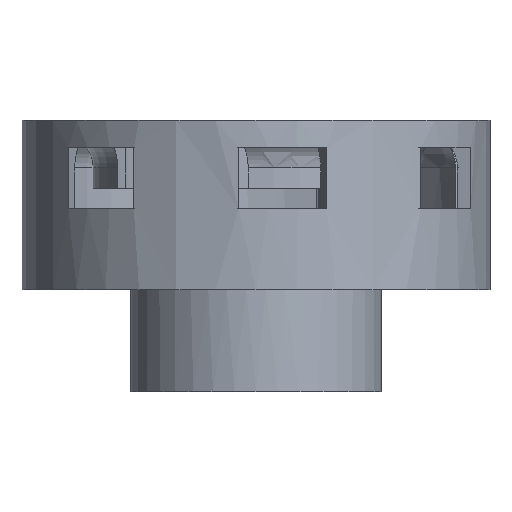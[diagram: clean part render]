
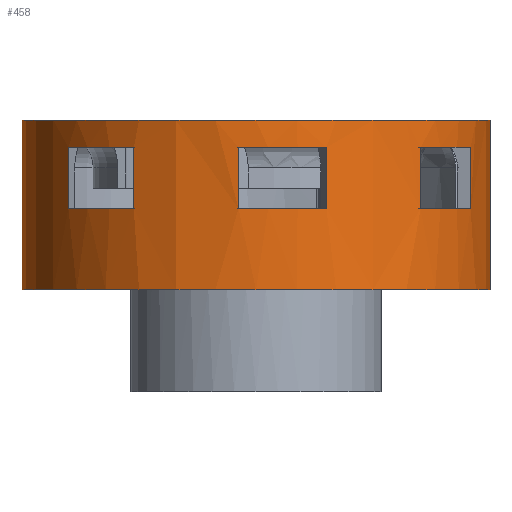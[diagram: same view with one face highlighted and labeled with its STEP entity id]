
A CAD part, front view. The second image highlights one B-rep face of the part: STEP entity #458.
In plain terms, the highlighted cylindrical face has radius 34.5 mm (diameter 69 mm), a partial arc.
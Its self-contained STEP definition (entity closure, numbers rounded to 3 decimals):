
#11 = DIRECTION ( 'NONE',  ( 0., 0., 1. ) ) ;
#22 = CARTESIAN_POINT ( 'NONE',  ( 24.267, -24.523, 0. ) ) ;
#27 = VECTOR ( 'NONE', #1894, 1000. ) ;
#51 = EDGE_CURVE ( 'NONE', #401, #800, #1520, .T. ) ;
#68 = CARTESIAN_POINT ( 'NONE',  ( -34.5, 0., 10. ) ) ;
#82 = CARTESIAN_POINT ( 'NONE',  ( 10.383, -32.9, 0. ) ) ;
#118 = CARTESIAN_POINT ( 'NONE',  ( -34.5, 0., -15. ) ) ;
#192 = CARTESIAN_POINT ( 'NONE',  ( 10.383, -32.9, -3. ) ) ;
#220 = ORIENTED_EDGE ( 'NONE', *, *, #1183, .F. ) ;
#235 = ORIENTED_EDGE ( 'NONE', *, *, #2316, .F. ) ;
#313 = CARTESIAN_POINT ( 'NONE',  ( 0., 0., 6. ) ) ;
#319 = EDGE_CURVE ( 'NONE', #1529, #337, #671, .T. ) ;
#329 = AXIS2_PLACEMENT_3D ( 'NONE', #1530, #418, #1719 ) ;
#337 = VERTEX_POINT ( 'NONE', #1885 ) ;
#342 = AXIS2_PLACEMENT_3D ( 'NONE', #2090, #969, #2287 ) ;
#343 = LINE ( 'NONE', #937, #2258 ) ;
#365 = EDGE_CURVE ( 'NONE', #369, #758, #563, .T. ) ;
#369 = VERTEX_POINT ( 'NONE', #1335 ) ;
#371 = LINE ( 'NONE', #1842, #1347 ) ;
#380 = AXIS2_PLACEMENT_3D ( 'NONE', #313, #1616, #502 ) ;
#383 = FACE_BOUND ( 'NONE', #1202, .T. ) ;
#385 = EDGE_CURVE ( 'NONE', #758, #602, #980, .T. ) ;
#386 = VERTEX_POINT ( 'NONE', #1710 ) ;
#393 = AXIS2_PLACEMENT_3D ( 'NONE', #1096, #2415, #1283 ) ;
#397 = DIRECTION ( 'NONE',  ( 0., 0., 1. ) ) ;
#401 = VERTEX_POINT ( 'NONE', #1159 ) ;
#409 = DIRECTION ( 'NONE',  ( 0., 0., -1. ) ) ;
#418 = DIRECTION ( 'NONE',  ( 0., 0., -1. ) ) ;
#424 = CARTESIAN_POINT ( 'NONE',  ( -2.587, -34.403, -3. ) ) ;
#458 = ADVANCED_FACE ( 'NONE', ( #2307, #383, #1366, #807 ), #749, .T. ) ;
#473 = AXIS2_PLACEMENT_3D ( 'NONE', #1125, #11, #1314 ) ;
#489 = CARTESIAN_POINT ( 'NONE',  ( 24.267, -24.523, -3. ) ) ;
#502 = DIRECTION ( 'NONE',  ( -1., 0., 0. ) ) ;
#559 = ORIENTED_EDGE ( 'NONE', *, *, #319, .T. ) ;
#563 = LINE ( 'NONE', #1525, #2047 ) ;
#602 = VERTEX_POINT ( 'NONE', #118 ) ;
#612 = ORIENTED_EDGE ( 'NONE', *, *, #1461, .F. ) ;
#630 = CARTESIAN_POINT ( 'NONE',  ( 0., 0., 0. ) ) ;
#633 = DIRECTION ( 'NONE',  ( 0., 0., -1. ) ) ;
#636 = ORIENTED_EDGE ( 'NONE', *, *, #1177, .T. ) ;
#645 = DIRECTION ( 'NONE',  ( 0., 0., 1. ) ) ;
#653 = CARTESIAN_POINT ( 'NONE',  ( 34.5, 0., -15. ) ) ;
#671 = CIRCLE ( 'NONE', #2388, 34.5 ) ;
#681 = ORIENTED_EDGE ( 'NONE', *, *, #51, .F. ) ;
#692 = EDGE_CURVE ( 'NONE', #1529, #1982, #1839, .T. ) ;
#694 = ORIENTED_EDGE ( 'NONE', *, *, #2240, .T. ) ;
#699 = LINE ( 'NONE', #855, #1254 ) ;
#710 = VERTEX_POINT ( 'NONE', #68 ) ;
#712 = ORIENTED_EDGE ( 'NONE', *, *, #801, .T. ) ;
#723 = DIRECTION ( 'NONE',  ( 0., 0., 1. ) ) ;
#749 = CYLINDRICAL_SURFACE ( 'NONE', #1571, 34.5 ) ;
#758 = VERTEX_POINT ( 'NONE', #653 ) ;
#769 = VERTEX_POINT ( 'NONE', #1954 ) ;
#785 = CIRCLE ( 'NONE', #918, 34.5 ) ;
#800 = VERTEX_POINT ( 'NONE', #489 ) ;
#801 = EDGE_CURVE ( 'NONE', #769, #1982, #1104, .T. ) ;
#807 = FACE_BOUND ( 'NONE', #2218, .T. ) ;
#854 = DIRECTION ( 'NONE',  ( 0., 0., -1. ) ) ;
#855 = CARTESIAN_POINT ( 'NONE',  ( -34.5, 0., 0. ) ) ;
#856 = CIRCLE ( 'NONE', #393, 34.5 ) ;
#882 = CARTESIAN_POINT ( 'NONE',  ( -2.587, -34.403, 6. ) ) ;
#893 = LINE ( 'NONE', #1189, #1073 ) ;
#918 = AXIS2_PLACEMENT_3D ( 'NONE', #1978, #854, #2160 ) ;
#936 = CIRCLE ( 'NONE', #473, 34.5 ) ;
#937 = CARTESIAN_POINT ( 'NONE',  ( -2.587, -34.403, 0. ) ) ;
#959 = ORIENTED_EDGE ( 'NONE', *, *, #2375, .F. ) ;
#969 = DIRECTION ( 'NONE',  ( 0., 0., -1. ) ) ;
#980 = CIRCLE ( 'NONE', #329, 34.5 ) ;
#1001 = DIRECTION ( 'NONE',  ( -1., 0., 0. ) ) ;
#1002 = EDGE_CURVE ( 'NONE', #710, #602, #699, .T. ) ;
#1042 = CARTESIAN_POINT ( 'NONE',  ( 0., 0., -3. ) ) ;
#1073 = VECTOR ( 'NONE', #1557, 1000. ) ;
#1096 = CARTESIAN_POINT ( 'NONE',  ( 0., 0., -3. ) ) ;
#1104 = CIRCLE ( 'NONE', #1400, 34.5 ) ;
#1111 = EDGE_LOOP ( 'NONE', ( #1266, #1531, #1729, #1793 ) ) ;
#1116 = VERTEX_POINT ( 'NONE', #882 ) ;
#1125 = CARTESIAN_POINT ( 'NONE',  ( 0., 0., 6. ) ) ;
#1159 = CARTESIAN_POINT ( 'NONE',  ( 24.267, -24.523, 6. ) ) ;
#1177 = EDGE_CURVE ( 'NONE', #1553, #2267, #856, .T. ) ;
#1183 = EDGE_CURVE ( 'NONE', #386, #1208, #371, .T. ) ;
#1189 = CARTESIAN_POINT ( 'NONE',  ( -18.018, -29.421, 0. ) ) ;
#1196 = CARTESIAN_POINT ( 'NONE',  ( -27.661, -20.618, 6. ) ) ;
#1202 = EDGE_LOOP ( 'NONE', ( #636, #612, #2276, #959 ) ) ;
#1208 = VERTEX_POINT ( 'NONE', #1855 ) ;
#1227 = DIRECTION ( 'NONE',  ( -1., 0., 0. ) ) ;
#1254 = VECTOR ( 'NONE', #2161, 1000. ) ;
#1266 = ORIENTED_EDGE ( 'NONE', *, *, #365, .F. ) ;
#1276 = VECTOR ( 'NONE', #645, 1000. ) ;
#1283 = DIRECTION ( 'NONE',  ( -1., 0., 0. ) ) ;
#1314 = DIRECTION ( 'NONE',  ( -1., 0., 0. ) ) ;
#1333 = VECTOR ( 'NONE', #633, 1000. ) ;
#1335 = CARTESIAN_POINT ( 'NONE',  ( 34.5, 0., 10. ) ) ;
#1347 = VECTOR ( 'NONE', #723, 1000. ) ;
#1366 = FACE_BOUND ( 'NONE', #1750, .T. ) ;
#1400 = AXIS2_PLACEMENT_3D ( 'NONE', #1042, #2363, #1227 ) ;
#1444 = EDGE_CURVE ( 'NONE', #401, #1208, #936, .T. ) ;
#1461 = EDGE_CURVE ( 'NONE', #1116, #2267, #343, .T. ) ;
#1502 = DIRECTION ( 'NONE',  ( 0., 0., -1. ) ) ;
#1508 = CARTESIAN_POINT ( 'NONE',  ( 0., 0., 6. ) ) ;
#1520 = LINE ( 'NONE', #22, #27 ) ;
#1525 = CARTESIAN_POINT ( 'NONE',  ( 34.5, 0., 0. ) ) ;
#1529 = VERTEX_POINT ( 'NONE', #1196 ) ;
#1530 = CARTESIAN_POINT ( 'NONE',  ( 0., 0., -15. ) ) ;
#1531 = ORIENTED_EDGE ( 'NONE', *, *, #1755, .T. ) ;
#1553 = VERTEX_POINT ( 'NONE', #192 ) ;
#1557 = DIRECTION ( 'NONE',  ( 0., 0., 1. ) ) ;
#1571 = AXIS2_PLACEMENT_3D ( 'NONE', #630, #2319, #1001 ) ;
#1616 = DIRECTION ( 'NONE',  ( 0., 0., 1. ) ) ;
#1700 = DIRECTION ( 'NONE',  ( -1., 0., 0. ) ) ;
#1710 = CARTESIAN_POINT ( 'NONE',  ( 31.642, -13.748, -3. ) ) ;
#1719 = DIRECTION ( 'NONE',  ( -1., 0., 0. ) ) ;
#1729 = ORIENTED_EDGE ( 'NONE', *, *, #1002, .T. ) ;
#1750 = EDGE_LOOP ( 'NONE', ( #694, #681, #2099, #220 ) ) ;
#1755 = EDGE_CURVE ( 'NONE', #369, #710, #785, .T. ) ;
#1768 = LINE ( 'NONE', #82, #1276 ) ;
#1793 = ORIENTED_EDGE ( 'NONE', *, *, #385, .F. ) ;
#1839 = LINE ( 'NONE', #2117, #1333 ) ;
#1842 = CARTESIAN_POINT ( 'NONE',  ( 31.642, -13.748, 0. ) ) ;
#1855 = CARTESIAN_POINT ( 'NONE',  ( 31.642, -13.748, 6. ) ) ;
#1885 = CARTESIAN_POINT ( 'NONE',  ( -18.018, -29.421, 6. ) ) ;
#1894 = DIRECTION ( 'NONE',  ( 0., 0., -1. ) ) ;
#1954 = CARTESIAN_POINT ( 'NONE',  ( -18.018, -29.421, -3. ) ) ;
#1978 = CARTESIAN_POINT ( 'NONE',  ( 0., 0., 10. ) ) ;
#1982 = VERTEX_POINT ( 'NONE', #2163 ) ;
#1989 = EDGE_CURVE ( 'NONE', #1116, #2002, #2392, .T. ) ;
#2002 = VERTEX_POINT ( 'NONE', #2368 ) ;
#2011 = CIRCLE ( 'NONE', #342, 34.5 ) ;
#2047 = VECTOR ( 'NONE', #409, 1000. ) ;
#2090 = CARTESIAN_POINT ( 'NONE',  ( 0., 0., -3. ) ) ;
#2099 = ORIENTED_EDGE ( 'NONE', *, *, #1444, .T. ) ;
#2117 = CARTESIAN_POINT ( 'NONE',  ( -27.661, -20.618, 0. ) ) ;
#2160 = DIRECTION ( 'NONE',  ( -1., 0., 0. ) ) ;
#2161 = DIRECTION ( 'NONE',  ( 0., 0., -1. ) ) ;
#2163 = CARTESIAN_POINT ( 'NONE',  ( -27.661, -20.618, -3. ) ) ;
#2204 = ORIENTED_EDGE ( 'NONE', *, *, #692, .F. ) ;
#2218 = EDGE_LOOP ( 'NONE', ( #712, #2204, #559, #235 ) ) ;
#2240 = EDGE_CURVE ( 'NONE', #386, #800, #2011, .T. ) ;
#2258 = VECTOR ( 'NONE', #1502, 1000. ) ;
#2267 = VERTEX_POINT ( 'NONE', #424 ) ;
#2276 = ORIENTED_EDGE ( 'NONE', *, *, #1989, .T. ) ;
#2287 = DIRECTION ( 'NONE',  ( -1., 0., 0. ) ) ;
#2307 = FACE_OUTER_BOUND ( 'NONE', #1111, .T. ) ;
#2316 = EDGE_CURVE ( 'NONE', #769, #337, #893, .T. ) ;
#2319 = DIRECTION ( 'NONE',  ( 0., 0., -1. ) ) ;
#2363 = DIRECTION ( 'NONE',  ( 0., 0., -1. ) ) ;
#2368 = CARTESIAN_POINT ( 'NONE',  ( 10.383, -32.9, 6. ) ) ;
#2375 = EDGE_CURVE ( 'NONE', #1553, #2002, #1768, .T. ) ;
#2388 = AXIS2_PLACEMENT_3D ( 'NONE', #1508, #397, #1700 ) ;
#2392 = CIRCLE ( 'NONE', #380, 34.5 ) ;
#2415 = DIRECTION ( 'NONE',  ( 0., 0., -1. ) ) ;
